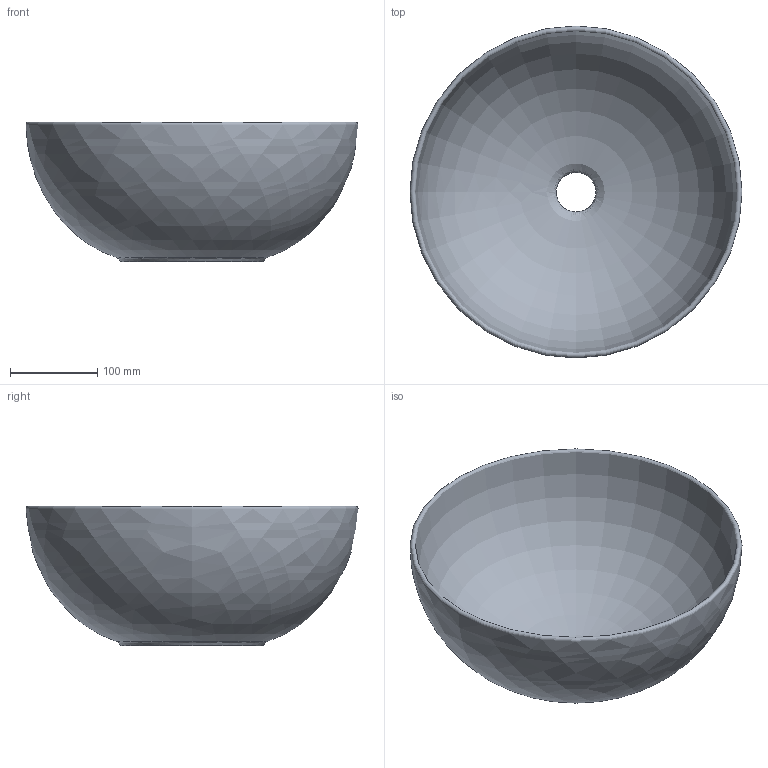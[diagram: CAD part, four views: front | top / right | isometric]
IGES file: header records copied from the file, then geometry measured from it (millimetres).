
Global section: file name: C:\Users\FULVIO\Desktop\Archivio Nic\Ciotole\Ciotola 38\Modello 3D\Ciotola 38.igs; native system: Rhinoceros ( Mar  6 2018 ); preprocessor: Trout Lake IGES 012 Mar  6 2018; date: 191219.090314; units: millimetre
Bounding box: 380.02 x 380.02 x 160 mm (x, y, z)
Surface area: 412492.4 mm2 (no closed solid volume)
Topology: 0 solids, 0 shells, 3 faces, 9 edges, 6 vertices
Faces by surface type: bspline 3
